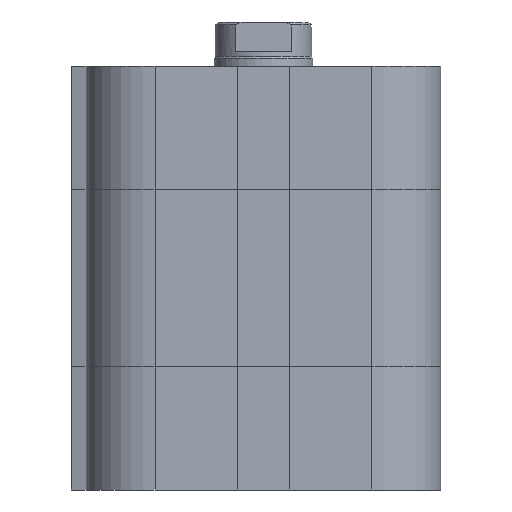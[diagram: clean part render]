
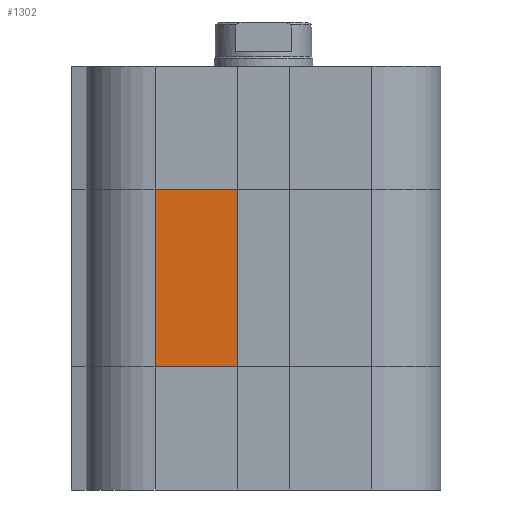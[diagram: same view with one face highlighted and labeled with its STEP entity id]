
A CAD part, left-side view. The second image highlights one B-rep face of the part: STEP entity #1302.
In plain terms, the highlighted planar face has unit normal (-1, 0, 0).
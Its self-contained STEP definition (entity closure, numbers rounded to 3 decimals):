
#1213=CARTESIAN_POINT('',(-18.,11.0,12.5));
#1214=VERTEX_POINT('',#1213);
#1222=CARTESIAN_POINT('',(-18.,11.0,30.5));
#1223=VERTEX_POINT('',#1222);
#1224=CARTESIAN_POINT('',(-18.,11.0,12.5));
#1225=DIRECTION('',(0.0,0.0,1.0));
#1226=VECTOR('',#1225,18.);
#1227=LINE('',#1224,#1226);
#1228=EDGE_CURVE('',#1214,#1223,#1227,.T.);
#1272=CARTESIAN_POINT('',(-18.0,2.6,0.0));
#1273=DIRECTION('',(-1.0,0.0,0.0));
#1274=DIRECTION('',(0.0,0.0,1.0));
#1275=AXIS2_PLACEMENT_3D('',#1272,#1273,#1274);
#1276=PLANE('',#1275);
#1277=CARTESIAN_POINT('',(-18.0,2.6,12.5));
#1278=VERTEX_POINT('',#1277);
#1279=CARTESIAN_POINT('',(-18.,11.0,12.5));
#1280=DIRECTION('',(0.0,-1.0,0.0));
#1281=VECTOR('',#1280,8.4);
#1282=LINE('',#1279,#1281);
#1283=EDGE_CURVE('',#1214,#1278,#1282,.T.);
#1284=ORIENTED_EDGE('',*,*,#1283,.T.);
#1285=CARTESIAN_POINT('',(-18.0,2.6,30.5));
#1286=VERTEX_POINT('',#1285);
#1287=CARTESIAN_POINT('',(-18.0,2.6,12.5));
#1288=DIRECTION('',(0.0,0.0,1.0));
#1289=VECTOR('',#1288,18.);
#1290=LINE('',#1287,#1289);
#1291=EDGE_CURVE('',#1278,#1286,#1290,.T.);
#1292=ORIENTED_EDGE('',*,*,#1291,.T.);
#1293=CARTESIAN_POINT('',(-18.,11.0,30.5));
#1294=DIRECTION('',(0.0,-1.0,0.0));
#1295=VECTOR('',#1294,8.4);
#1296=LINE('',#1293,#1295);
#1297=EDGE_CURVE('',#1223,#1286,#1296,.T.);
#1298=ORIENTED_EDGE('',*,*,#1297,.F.);
#1299=ORIENTED_EDGE('',*,*,#1228,.F.);
#1300=EDGE_LOOP('',(#1284,#1292,#1298,#1299));
#1301=FACE_OUTER_BOUND('',#1300,.T.);
#1302=ADVANCED_FACE('',(#1301),#1276,.T.);
